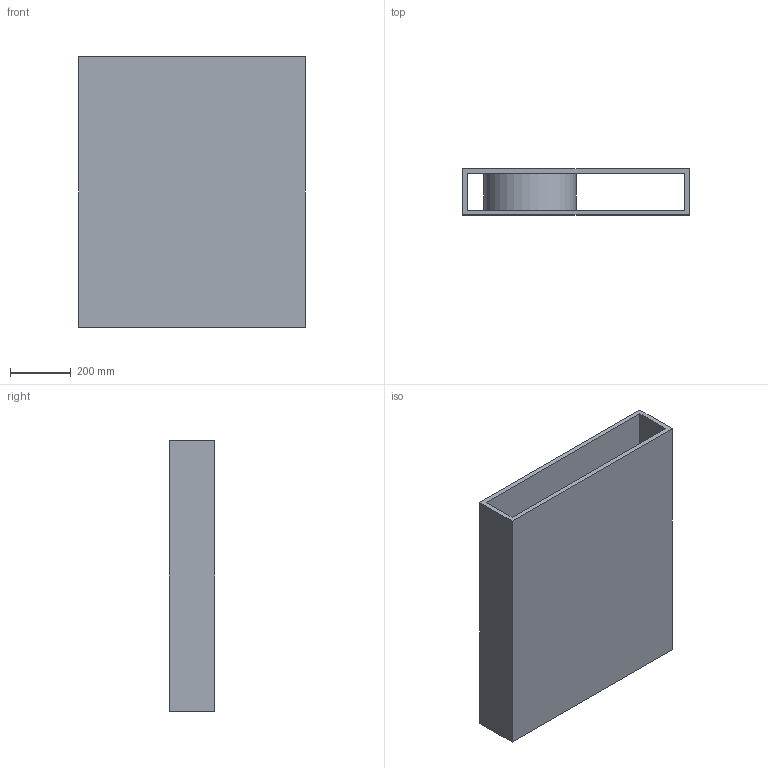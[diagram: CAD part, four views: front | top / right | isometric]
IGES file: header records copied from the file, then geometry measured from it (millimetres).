
Start section: SolidWorks IGES file using analytic representation for surfaces
Global section: file name: \\Logicserver\datos\01-VICCARBE\PRODUCTOS\53-SISTEMA\04-MODELADOS (PLANOS)\WEB\viccarbe-sistema-3D\Modulos\Mesa contenedor.IGS; native system: SolidWorks 2013; preprocessor: SolidWorks 2013; author: bdisenyo; date: 170120.123322; units: millimetre
Bounding box: 745 x 150 x 890 mm (x, y, z)
Surface area: 3227826.1 mm2 (no closed solid volume)
Topology: 0 solids, 0 shells, 18 faces, 424 edges, 424 vertices
Faces by surface type: bspline 12, revolution 6
